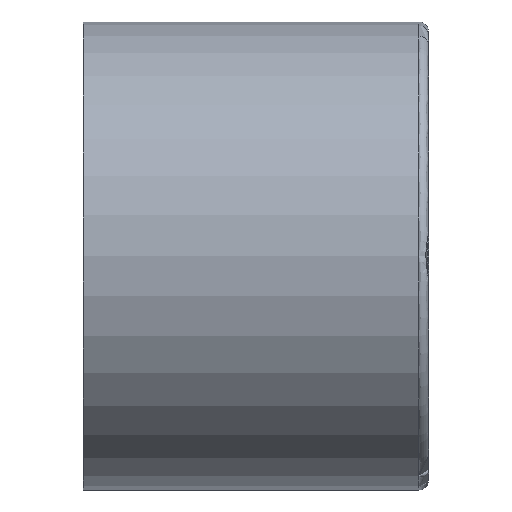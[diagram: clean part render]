
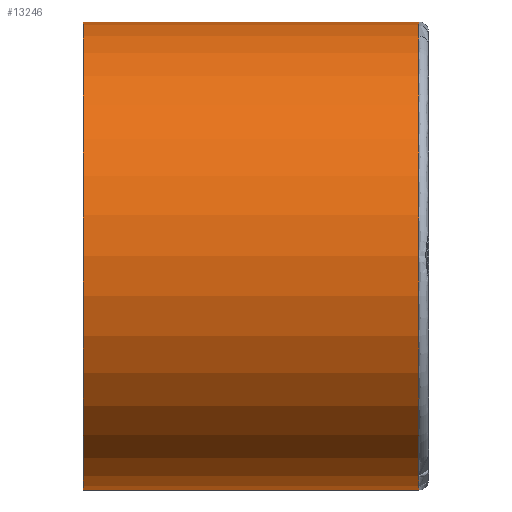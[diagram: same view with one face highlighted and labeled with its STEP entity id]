
A CAD part, top view. The second image highlights one B-rep face of the part: STEP entity #13246.
In plain terms, the highlighted cylindrical face has radius 29.3 mm (diameter 58.6 mm), a partial arc.
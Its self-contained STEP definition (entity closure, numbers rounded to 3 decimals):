
#8 = DIRECTION ( 'NONE',  ( 0., 1., 0. ) ) ;
#387 = CARTESIAN_POINT ( 'NONE',  ( -1.2, 0., 0. ) ) ;
#523 = CARTESIAN_POINT ( 'NONE',  ( -43.2, 29.3, 0. ) ) ;
#3083 = VERTEX_POINT ( 'NONE', #8080 ) ;
#4442 = VERTEX_POINT ( 'NONE', #14097 ) ;
#6378 = EDGE_LOOP ( 'NONE', ( #34611, #28384, #19758, #23015 ) ) ;
#7610 = EDGE_CURVE ( 'NONE', #34860, #13173, #7789, .T. ) ;
#7789 = LINE ( 'NONE', #12616, #14626 ) ;
#8080 = CARTESIAN_POINT ( 'NONE',  ( -1.2, 29.3, 0. ) ) ;
#11773 = DIRECTION ( 'NONE',  ( 1., 0., 0. ) ) ;
#12616 = CARTESIAN_POINT ( 'NONE',  ( -43.2, -29.3, 0. ) ) ;
#12744 = DIRECTION ( 'NONE',  ( 1., 0., 0. ) ) ;
#13173 = VERTEX_POINT ( 'NONE', #17084 ) ;
#13246 = ADVANCED_FACE ( 'NONE', ( #30832 ), #16766, .T. ) ;
#14097 = CARTESIAN_POINT ( 'NONE',  ( -43.2, 29.3, 0. ) ) ;
#14626 = VECTOR ( 'NONE', #12744, 1000. ) ;
#15153 = DIRECTION ( 'NONE',  ( 1., 0., 0. ) ) ;
#16766 = CYLINDRICAL_SURFACE ( 'NONE', #17614, 29.3 ) ;
#17084 = CARTESIAN_POINT ( 'NONE',  ( -1.2, -29.3, 0. ) ) ;
#17207 = DIRECTION ( 'NONE',  ( 0., -1., 0. ) ) ;
#17614 = AXIS2_PLACEMENT_3D ( 'NONE', #34479, #11773, #17207 ) ;
#19758 = ORIENTED_EDGE ( 'NONE', *, *, #7610, .T. ) ;
#23015 = ORIENTED_EDGE ( 'NONE', *, *, #28015, .T. ) ;
#23281 = AXIS2_PLACEMENT_3D ( 'NONE', #31769, #37743, #26057 ) ;
#23514 = DIRECTION ( 'NONE',  ( -1., 0., 0. ) ) ;
#23973 = EDGE_CURVE ( 'NONE', #4442, #3083, #33416, .T. ) ;
#26057 = DIRECTION ( 'NONE',  ( 0., 1., 0. ) ) ;
#28015 = EDGE_CURVE ( 'NONE', #13173, #3083, #37401, .T. ) ;
#28384 = ORIENTED_EDGE ( 'NONE', *, *, #28991, .F. ) ;
#28991 = EDGE_CURVE ( 'NONE', #34860, #4442, #34310, .T. ) ;
#29736 = CARTESIAN_POINT ( 'NONE',  ( -43.2, -29.3, 0. ) ) ;
#29779 = VECTOR ( 'NONE', #15153, 1000. ) ;
#30485 = AXIS2_PLACEMENT_3D ( 'NONE', #387, #23514, #8 ) ;
#30832 = FACE_OUTER_BOUND ( 'NONE', #6378, .T. ) ;
#31769 = CARTESIAN_POINT ( 'NONE',  ( -43.2, 0., 0. ) ) ;
#33416 = LINE ( 'NONE', #523, #29779 ) ;
#34310 = CIRCLE ( 'NONE', #23281, 29.3 ) ;
#34479 = CARTESIAN_POINT ( 'NONE',  ( -43.2, 0., 0. ) ) ;
#34611 = ORIENTED_EDGE ( 'NONE', *, *, #23973, .F. ) ;
#34860 = VERTEX_POINT ( 'NONE', #29736 ) ;
#37401 = CIRCLE ( 'NONE', #30485, 29.3 ) ;
#37743 = DIRECTION ( 'NONE',  ( -1., 0., 0. ) ) ;
